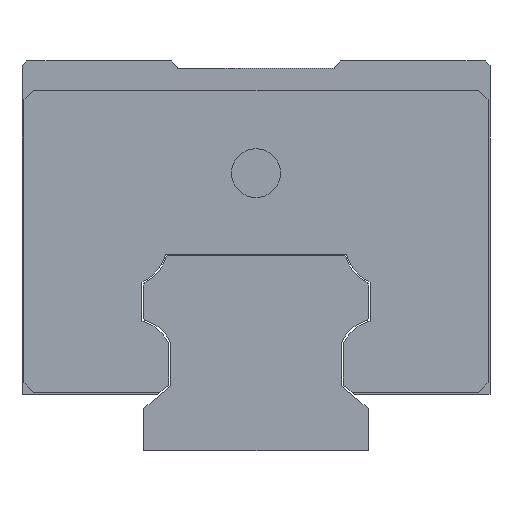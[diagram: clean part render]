
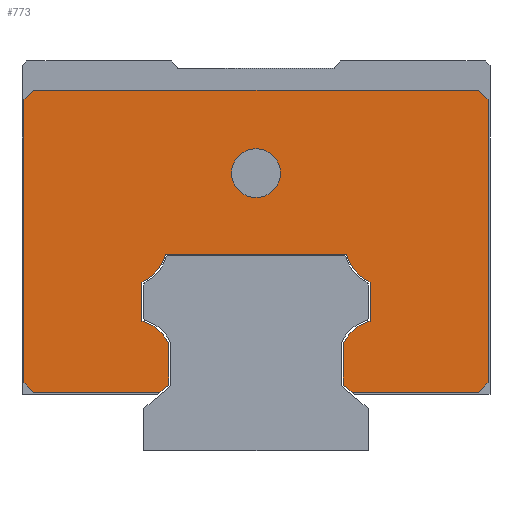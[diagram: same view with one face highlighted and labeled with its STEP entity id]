
A CAD part, left-side view. The second image highlights one B-rep face of the part: STEP entity #773.
In plain terms, the highlighted planar face has unit normal (-1, 0, 0).
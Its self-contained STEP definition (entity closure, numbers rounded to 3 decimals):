
#588=FACE_BOUND('',#1059,.T.);
#589=FACE_BOUND('',#1060,.T.);
#773=ADVANCED_FACE('',(#588,#589),#899,.F.);
#899=PLANE('',#2773);
#1059=EDGE_LOOP('',(#1426));
#1060=EDGE_LOOP('',(#1427,#1428,#1429,#1430,#1431,#1432,#1433,#1434,#1435,
#1436,#1437,#1438,#1439,#1440,#1441,#1442,#1443,#1444,#1445,#1446));
#1240=CIRCLE('',#2757,4.169);
#1241=CIRCLE('',#2760,4.169);
#1242=CIRCLE('',#2763,4.169);
#1243=CIRCLE('',#2766,4.169);
#1244=CIRCLE('',#2772,2.5);
#1426=ORIENTED_EDGE('',*,*,#2175,.F.);
#1427=ORIENTED_EDGE('',*,*,#2173,.F.);
#1428=ORIENTED_EDGE('',*,*,#2176,.T.);
#1429=ORIENTED_EDGE('',*,*,#2168,.F.);
#1430=ORIENTED_EDGE('',*,*,#2167,.F.);
#1431=ORIENTED_EDGE('',*,*,#2160,.F.);
#1432=ORIENTED_EDGE('',*,*,#2154,.F.);
#1433=ORIENTED_EDGE('',*,*,#2153,.F.);
#1434=ORIENTED_EDGE('',*,*,#2145,.F.);
#1435=ORIENTED_EDGE('',*,*,#2144,.F.);
#1436=ORIENTED_EDGE('',*,*,#2136,.F.);
#1437=ORIENTED_EDGE('',*,*,#2135,.F.);
#1438=ORIENTED_EDGE('',*,*,#2127,.F.);
#1439=ORIENTED_EDGE('',*,*,#2125,.F.);
#1440=ORIENTED_EDGE('',*,*,#2120,.F.);
#1441=ORIENTED_EDGE('',*,*,#2112,.F.);
#1442=ORIENTED_EDGE('',*,*,#2177,.T.);
#1443=ORIENTED_EDGE('',*,*,#2108,.F.);
#1444=ORIENTED_EDGE('',*,*,#2178,.T.);
#1445=ORIENTED_EDGE('',*,*,#2104,.F.);
#1446=ORIENTED_EDGE('',*,*,#2179,.T.);
#1900=VERTEX_POINT('',#3629);
#1901=VERTEX_POINT('',#3631);
#1904=VERTEX_POINT('',#3638);
#1905=VERTEX_POINT('',#3640);
#1908=VERTEX_POINT('',#3647);
#1909=VERTEX_POINT('',#3649);
#1910=VERTEX_POINT('',#3653);
#1916=VERTEX_POINT('',#3667);
#1921=VERTEX_POINT('',#3679);
#1922=VERTEX_POINT('',#3683);
#1927=VERTEX_POINT('',#3696);
#1928=VERTEX_POINT('',#3700);
#1933=VERTEX_POINT('',#3713);
#1934=VERTEX_POINT('',#3717);
#1939=VERTEX_POINT('',#3730);
#1940=VERTEX_POINT('',#3734);
#1944=VERTEX_POINT('',#3744);
#1950=VERTEX_POINT('',#3758);
#1954=VERTEX_POINT('',#3767);
#1955=VERTEX_POINT('',#3769);
#1956=VERTEX_POINT('',#3773);
#2104=EDGE_CURVE('',#1900,#1901,#2381,.T.);
#2108=EDGE_CURVE('',#1904,#1905,#2385,.T.);
#2112=EDGE_CURVE('',#1908,#1909,#2389,.T.);
#2120=EDGE_CURVE('',#1909,#1910,#2397,.T.);
#2125=EDGE_CURVE('',#1910,#1916,#2402,.T.);
#2127=EDGE_CURVE('',#1916,#1921,#1240,.T.);
#2135=EDGE_CURVE('',#1921,#1922,#2410,.T.);
#2136=EDGE_CURVE('',#1922,#1927,#1241,.T.);
#2144=EDGE_CURVE('',#1927,#1928,#2418,.T.);
#2145=EDGE_CURVE('',#1928,#1933,#1242,.T.);
#2153=EDGE_CURVE('',#1933,#1934,#2426,.T.);
#2154=EDGE_CURVE('',#1934,#1939,#1243,.T.);
#2160=EDGE_CURVE('',#1939,#1940,#2432,.T.);
#2167=EDGE_CURVE('',#1940,#1944,#2439,.T.);
#2168=EDGE_CURVE('',#1944,#1950,#2440,.T.);
#2173=EDGE_CURVE('',#1954,#1955,#2445,.T.);
#2175=EDGE_CURVE('',#1956,#1956,#1244,.T.);
#2176=EDGE_CURVE('',#1954,#1950,#2447,.T.);
#2177=EDGE_CURVE('',#1908,#1905,#2448,.T.);
#2178=EDGE_CURVE('',#1904,#1901,#2449,.T.);
#2179=EDGE_CURVE('',#1900,#1955,#2450,.T.);
#2381=LINE('',#3630,#2565);
#2385=LINE('',#3639,#2569);
#2389=LINE('',#3648,#2573);
#2397=LINE('',#3664,#2581);
#2402=LINE('',#3674,#2586);
#2410=LINE('',#3693,#2594);
#2418=LINE('',#3710,#2602);
#2426=LINE('',#3727,#2610);
#2432=LINE('',#3741,#2616);
#2439=LINE('',#3755,#2623);
#2440=LINE('',#3757,#2624);
#2445=LINE('',#3768,#2629);
#2447=LINE('',#3774,#2631);
#2448=LINE('',#3775,#2632);
#2449=LINE('',#3776,#2633);
#2450=LINE('',#3777,#2634);
#2565=VECTOR('',#2990,1.);
#2569=VECTOR('',#2996,1.);
#2573=VECTOR('',#3002,1.);
#2581=VECTOR('',#3012,1.);
#2586=VECTOR('',#3019,1.);
#2594=VECTOR('',#3035,1.);
#2602=VECTOR('',#3049,1.);
#2610=VECTOR('',#3063,1.);
#2616=VECTOR('',#3075,1.);
#2623=VECTOR('',#3084,1.);
#2624=VECTOR('',#3087,1.);
#2629=VECTOR('',#3094,1.);
#2631=VECTOR('',#3100,1.);
#2632=VECTOR('',#3101,1.);
#2633=VECTOR('',#3102,1.);
#2634=VECTOR('',#3103,1.);
#2757=AXIS2_PLACEMENT_3D('',#3678,#3024,#3025);
#2760=AXIS2_PLACEMENT_3D('',#3695,#3038,#3039);
#2763=AXIS2_PLACEMENT_3D('',#3712,#3052,#3053);
#2766=AXIS2_PLACEMENT_3D('',#3729,#3066,#3067);
#2772=AXIS2_PLACEMENT_3D('',#3772,#3098,#3099);
#2773=AXIS2_PLACEMENT_3D('',#3778,#3104,#3105);
#2990=DIRECTION('',(0.,-1.,0.));
#2996=DIRECTION('',(0.,0.,-1.));
#3002=DIRECTION('',(0.,1.,0.));
#3012=DIRECTION('',(0.,0.766,0.643));
#3019=DIRECTION('',(0.,0.,1.));
#3024=DIRECTION('',(1.,0.,0.));
#3025=DIRECTION('',(0.,1.,0.));
#3035=DIRECTION('',(0.,0.,1.));
#3038=DIRECTION('',(1.,0.,0.));
#3039=DIRECTION('',(0.,1.,0.));
#3049=DIRECTION('',(0.,1.,0.));
#3052=DIRECTION('',(1.,0.,0.));
#3053=DIRECTION('',(0.,-1.,0.));
#3063=DIRECTION('',(0.,0.,-1.));
#3066=DIRECTION('',(1.,0.,0.));
#3067=DIRECTION('',(0.,-1.,0.));
#3075=DIRECTION('',(0.,0.,-1.));
#3084=DIRECTION('',(0.,0.766,-0.643));
#3087=DIRECTION('',(0.,1.,0.));
#3094=DIRECTION('',(0.,0.,1.));
#3098=DIRECTION('',(-1.,0.,0.));
#3099=DIRECTION('',(0.,1.,0.));
#3100=DIRECTION('',(0.,-0.707,-0.707));
#3101=DIRECTION('',(0.,-0.707,0.707));
#3102=DIRECTION('',(0.,0.707,0.707));
#3103=DIRECTION('',(0.,0.707,-0.707));
#3104=DIRECTION('',(1.,0.,0.));
#3105=DIRECTION('',(0.,0.,-1.));
#3629=CARTESIAN_POINT('',(-40.5,22.8,37.));
#3630=CARTESIAN_POINT('',(-40.5,23.8,37.));
#3631=CARTESIAN_POINT('',(-40.5,-22.8,37.));
#3638=CARTESIAN_POINT('',(-40.5,-23.8,36.));
#3639=CARTESIAN_POINT('',(-40.5,-23.8,37.));
#3640=CARTESIAN_POINT('',(-40.5,-23.8,7.));
#3647=CARTESIAN_POINT('',(-40.5,-22.8,6.));
#3648=CARTESIAN_POINT('',(-40.5,-23.8,6.));
#3649=CARTESIAN_POINT('',(-40.5,-9.865,6.));
#3653=CARTESIAN_POINT('',(-40.5,-8.959,6.76));
#3664=CARTESIAN_POINT('',(-40.5,-9.865,6.));
#3667=CARTESIAN_POINT('',(-40.5,-8.959,11.018));
#3674=CARTESIAN_POINT('',(-40.5,-8.959,6.76));
#3678=CARTESIAN_POINT('',(-40.5,-12.75,9.283));
#3679=CARTESIAN_POINT('',(-40.5,-11.7,13.318));
#3683=CARTESIAN_POINT('',(-40.5,-11.7,17.332));
#3693=CARTESIAN_POINT('',(-40.5,-11.7,13.318));
#3695=CARTESIAN_POINT('',(-40.5,-13.35,21.16));
#3696=CARTESIAN_POINT('',(-40.5,-9.293,20.2));
#3700=CARTESIAN_POINT('',(-40.5,9.293,20.2));
#3710=CARTESIAN_POINT('',(-40.5,-9.293,20.2));
#3712=CARTESIAN_POINT('',(-40.5,13.35,21.16));
#3713=CARTESIAN_POINT('',(-40.5,11.7,17.332));
#3717=CARTESIAN_POINT('',(-40.5,11.7,13.318));
#3727=CARTESIAN_POINT('',(-40.5,11.7,17.332));
#3729=CARTESIAN_POINT('',(-40.5,12.75,9.283));
#3730=CARTESIAN_POINT('',(-40.5,8.959,11.018));
#3734=CARTESIAN_POINT('',(-40.5,8.959,6.76));
#3741=CARTESIAN_POINT('',(-40.5,8.959,11.018));
#3744=CARTESIAN_POINT('',(-40.5,9.865,6.));
#3755=CARTESIAN_POINT('',(-40.5,8.959,6.76));
#3757=CARTESIAN_POINT('',(-40.5,9.865,6.));
#3758=CARTESIAN_POINT('',(-40.5,22.8,6.));
#3767=CARTESIAN_POINT('',(-40.5,23.8,7.));
#3768=CARTESIAN_POINT('',(-40.5,23.8,6.));
#3769=CARTESIAN_POINT('',(-40.5,23.8,36.));
#3772=CARTESIAN_POINT('',(-40.5,0.,28.5));
#3773=CARTESIAN_POINT('',(-40.5,2.5,28.5));
#3774=CARTESIAN_POINT('',(-40.5,22.8,6.));
#3775=CARTESIAN_POINT('',(-40.5,-23.8,7.));
#3776=CARTESIAN_POINT('',(-40.5,-22.8,37.));
#3777=CARTESIAN_POINT('',(-40.5,23.8,36.));
#3778=CARTESIAN_POINT('',(-40.5,-12.75,9.283));
